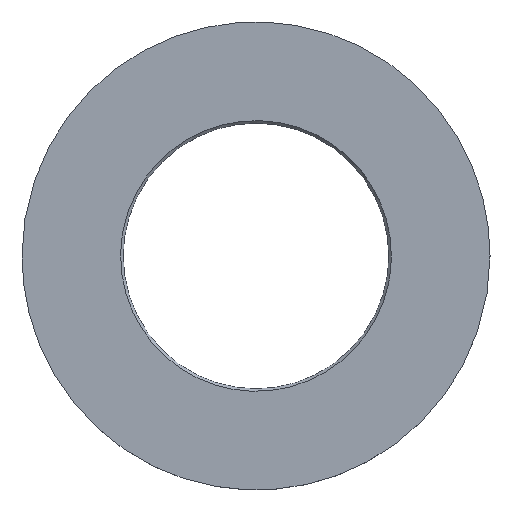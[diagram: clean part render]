
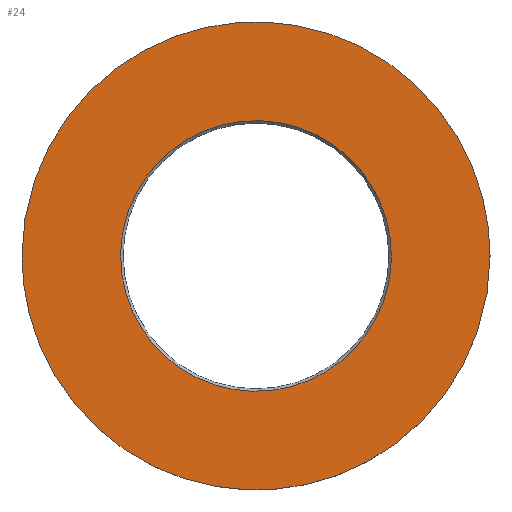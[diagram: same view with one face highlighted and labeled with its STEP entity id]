
A CAD part, top view. The second image highlights one B-rep face of the part: STEP entity #24.
In plain terms, the highlighted planar face has unit normal (0, 0, 1).
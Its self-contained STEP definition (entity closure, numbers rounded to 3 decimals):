
#24=ADVANCED_FACE('',(#38,#36),#184,.T.);
#36=FACE_BOUND('',#51,.T.);
#38=FACE_OUTER_BOUND('',#50,.T.);
#50=EDGE_LOOP('',(#64,#65));
#51=EDGE_LOOP('',(#66,#67));
#64=ORIENTED_EDGE('',*,*,#125,.F.);
#65=ORIENTED_EDGE('',*,*,#112,.F.);
#66=ORIENTED_EDGE('',*,*,#133,.F.);
#67=ORIENTED_EDGE('',*,*,#121,.F.);
#112=EDGE_CURVE('',#160,#167,#148,.T.);
#121=EDGE_CURVE('',#164,#172,#139,.T.);
#125=EDGE_CURVE('',#167,#160,#155,.T.);
#133=EDGE_CURVE('',#172,#164,#145,.T.);
#139=B_SPLINE_CURVE_WITH_KNOTS('',3,(#547,#548,#549,#550,#551,#552,#553,
#554,#555,#556,#557,#558,#559,#560,#561,#562,#563,#564,#565),
 .UNSPECIFIED.,.F.,.F.,(4,1,1,1,1,1,1,1,1,1,1,1,1,1,1,1,4),(0.,1.958,
4.033,6.196,8.404,10.612,12.774,
14.85,16.807,18.765,20.841,23.003,
25.211,27.419,29.582,31.657,33.615),
 .UNSPECIFIED.);
#145=B_SPLINE_CURVE_WITH_KNOTS('',3,(#634,#635,#636,#637,#638,#639,#640,
#641,#642,#643,#644,#645,#646,#647,#648,#649,#650,#651,#652),
 .UNSPECIFIED.,.F.,.F.,(4,1,1,1,1,1,1,1,1,1,1,1,1,1,1,1,4),(33.615,
35.573,37.648,39.811,42.019,44.227,
46.389,48.465,50.422,52.38,54.456,
56.618,58.826,61.034,63.197,65.272,
67.23),.UNSPECIFIED.);
#148=(
BOUNDED_CURVE()
B_SPLINE_CURVE(2,(#500,#501,#502,#503,#504),.UNSPECIFIED.,.F.,.F.)
B_SPLINE_CURVE_WITH_KNOTS((3,2,3),(-116.239,-87.179,
-58.119),.UNSPECIFIED.)
CURVE()
GEOMETRIC_REPRESENTATION_ITEM()
RATIONAL_B_SPLINE_CURVE((1.,0.707,1.,0.707,1.))
REPRESENTATION_ITEM('')
);
#155=(
BOUNDED_CURVE()
B_SPLINE_CURVE(2,(#589,#590,#591,#592,#593),.UNSPECIFIED.,.F.,.F.)
B_SPLINE_CURVE_WITH_KNOTS((3,2,3),(-58.119,-29.06,
0.),.UNSPECIFIED.)
CURVE()
GEOMETRIC_REPRESENTATION_ITEM()
RATIONAL_B_SPLINE_CURVE((1.,0.707,1.,0.707,1.))
REPRESENTATION_ITEM('')
);
#160=VERTEX_POINT('',#486);
#164=VERTEX_POINT('',#490);
#167=VERTEX_POINT('',#493);
#172=VERTEX_POINT('',#498);
#184=PLANE('',#206);
#206=AXIS2_PLACEMENT_3D('',#216,#211,$);
#211=DIRECTION('',(0.,0.,1.));
#216=CARTESIAN_POINT('',(23.125,-23.125,0.));
#486=CARTESIAN_POINT('',(18.5,0.,0.));
#490=CARTESIAN_POINT('',(10.7,0.,0.));
#493=CARTESIAN_POINT('',(-18.5,0.,0.));
#498=CARTESIAN_POINT('',(-10.7,0.,0.));
#500=CARTESIAN_POINT('',(18.5,0.,0.));
#501=CARTESIAN_POINT('',(18.5,-18.5,0.));
#502=CARTESIAN_POINT('',(0.,-18.5,0.));
#503=CARTESIAN_POINT('',(-18.5,-18.5,0.));
#504=CARTESIAN_POINT('',(-18.5,0.,0.));
#547=CARTESIAN_POINT('',(10.7,0.,0.));
#548=CARTESIAN_POINT('',(10.7,0.653,0.));
#549=CARTESIAN_POINT('',(10.577,1.997,0.));
#550=CARTESIAN_POINT('',(10.003,3.991,0.));
#551=CARTESIAN_POINT('',(9.01,5.909,0.));
#552=CARTESIAN_POINT('',(7.62,7.62,0.));
#553=CARTESIAN_POINT('',(5.909,9.01,0.));
#554=CARTESIAN_POINT('',(3.991,10.003,0.));
#555=CARTESIAN_POINT('',(1.997,10.577,0.));
#556=CARTESIAN_POINT('',(0.,10.76,0.));
#557=CARTESIAN_POINT('',(-1.997,10.577,0.));
#558=CARTESIAN_POINT('',(-3.991,10.003,0.));
#559=CARTESIAN_POINT('',(-5.909,9.01,0.));
#560=CARTESIAN_POINT('',(-7.62,7.62,0.));
#561=CARTESIAN_POINT('',(-9.01,5.909,0.));
#562=CARTESIAN_POINT('',(-10.003,3.991,0.));
#563=CARTESIAN_POINT('',(-10.577,1.997,0.));
#564=CARTESIAN_POINT('',(-10.7,0.653,0.));
#565=CARTESIAN_POINT('',(-10.7,0.,0.));
#589=CARTESIAN_POINT('',(-18.5,0.,0.));
#590=CARTESIAN_POINT('',(-18.5,18.5,0.));
#591=CARTESIAN_POINT('',(0.,18.5,0.));
#592=CARTESIAN_POINT('',(18.5,18.5,0.));
#593=CARTESIAN_POINT('',(18.5,0.,0.));
#634=CARTESIAN_POINT('',(-10.7,0.,0.));
#635=CARTESIAN_POINT('',(-10.7,-0.653,0.));
#636=CARTESIAN_POINT('',(-10.577,-1.997,0.));
#637=CARTESIAN_POINT('',(-10.003,-3.991,0.));
#638=CARTESIAN_POINT('',(-9.01,-5.909,0.));
#639=CARTESIAN_POINT('',(-7.62,-7.62,0.));
#640=CARTESIAN_POINT('',(-5.909,-9.01,0.));
#641=CARTESIAN_POINT('',(-3.991,-10.003,0.));
#642=CARTESIAN_POINT('',(-1.997,-10.577,0.));
#643=CARTESIAN_POINT('',(0.,-10.76,0.));
#644=CARTESIAN_POINT('',(1.997,-10.577,0.));
#645=CARTESIAN_POINT('',(3.991,-10.003,0.));
#646=CARTESIAN_POINT('',(5.909,-9.01,0.));
#647=CARTESIAN_POINT('',(7.62,-7.62,0.));
#648=CARTESIAN_POINT('',(9.01,-5.909,0.));
#649=CARTESIAN_POINT('',(10.003,-3.991,0.));
#650=CARTESIAN_POINT('',(10.577,-1.997,0.));
#651=CARTESIAN_POINT('',(10.7,-0.653,0.));
#652=CARTESIAN_POINT('',(10.7,0.,0.));
